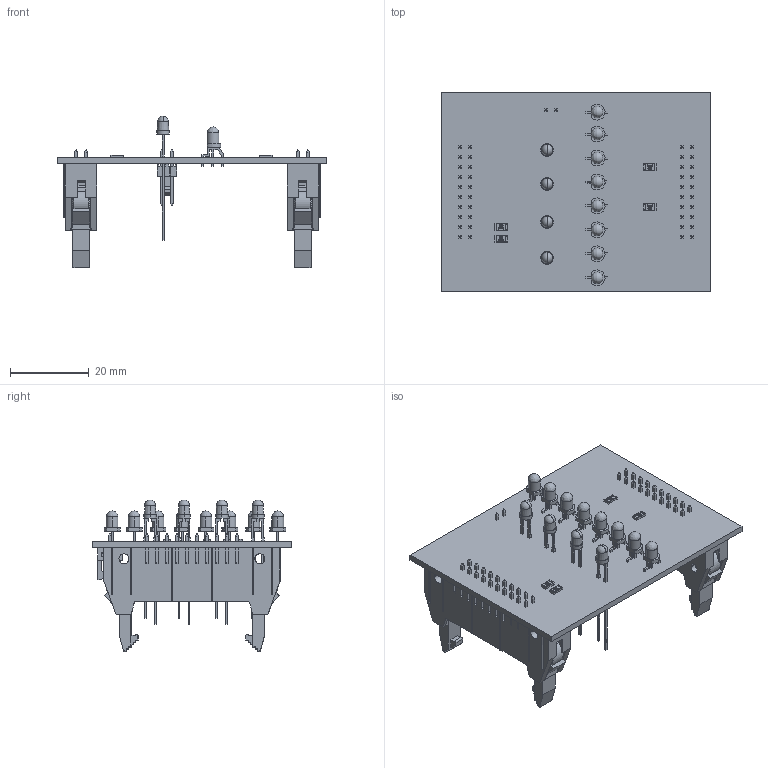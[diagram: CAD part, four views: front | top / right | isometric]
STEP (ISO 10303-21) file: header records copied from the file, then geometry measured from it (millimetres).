
FILE_DESCRIPTION(('Open CASCADE Model'),'2;1');
FILE_NAME('Open CASCADE Shape Model','2019-08-14T18:33:44',('Author'),( 'Open CASCADE'),'Open CASCADE STEP processor 6.8','Open CASCADE 6.8' ,'Unknown');
FILE_SCHEMA(('AUTOMOTIVE_DESIGN { 1 0 10303 214 1 1 1 1 }'));
Length unit declared in the file: millimetre
Products named in the file (31): PCB; Board; P3; MOLEX_2pin_2.54mm_(0022112022); Open CASCADE STEP translator 6.8 8.2.1.1; Open CASCADE STEP translator 6.8 8.2.1.2; P2; Amph_20POS_2.54mm_(71918-120LF); 67017_Y20; 77391_Y22; 67018_001; P1; R4; RES_1206_(3216); R3; R2; R1; DS12; LED_3mm_T-1_(WP710A10); DS11; DS10; DS9; DS8; LED_3mmBiColor_(SSL-LX3059IGW); DS7; DS6; DS5; DS4; DS3; DS2; DS1
Assembly tree (64 placements, depth 4):
  PCB
    Board
    P3
      MOLEX_2pin_2.54mm_(0022112022)
        Open CASCADE STEP translator 6.8 8.2.1.1
        Open CASCADE STEP translator 6.8 8.2.1.2
    P2
      Amph_20POS_2.54mm_(71918-120LF)
        67017_Y20
        77391_Y22  x20
        67018_001  x2
    P1
      Amph_20POS_2.54mm_(71918-120LF)
        67017_Y20
        77391_Y22  x20
        67018_001  x2
    R4
      RES_1206_(3216)
    R3
      RES_1206_(3216)
    R2
      RES_1206_(3216)
    R1
      RES_1206_(3216)
    DS12
      LED_3mm_T-1_(WP710A10)
    DS11
      LED_3mm_T-1_(WP710A10)
    DS10
      LED_3mm_T-1_(WP710A10)
    DS9
      LED_3mm_T-1_(WP710A10)
    DS8
      LED_3mmBiColor_(SSL-LX3059IGW)
    DS7
      LED_3mmBiColor_(SSL-LX3059IGW)
    DS6
      LED_3mmBiColor_(SSL-LX3059IGW)
    DS5
      LED_3mmBiColor_(SSL-LX3059IGW)
    DS4
      LED_3mmBiColor_(SSL-LX3059IGW)
    DS3
      LED_3mmBiColor_(SSL-LX3059IGW)
    DS2
      LED_3mmBiColor_(SSL-LX3059IGW)
    DS1
      LED_3mmBiColor_(SSL-LX3059IGW)
Bounding box: 68.58 x 50.8 x 38.61 mm (x, y, z)
Volume: 12956 mm3; surface area: 20281.8 mm2
Topology: 64 solids, 64 shells, 4799 faces, 12807 edges, 8234 vertices
Faces by surface type: plane 3211, bspline 1008, cylinder 524, sphere 24, torus 16, cone 16
Entity records: 56132 total; most frequent: CARTESIAN_POINT 16145, ORIENTED_EDGE 7866, DIRECTION 6205, EDGE_CURVE 3933, LINE 3137, VECTOR 3137, VERTEX_POINT 2548, FACE_BOUND 1555
